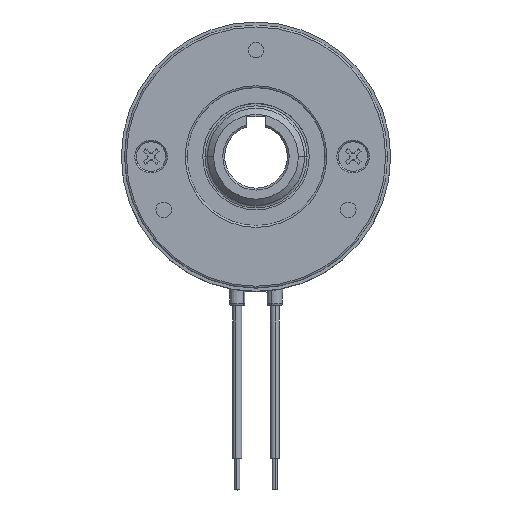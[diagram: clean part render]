
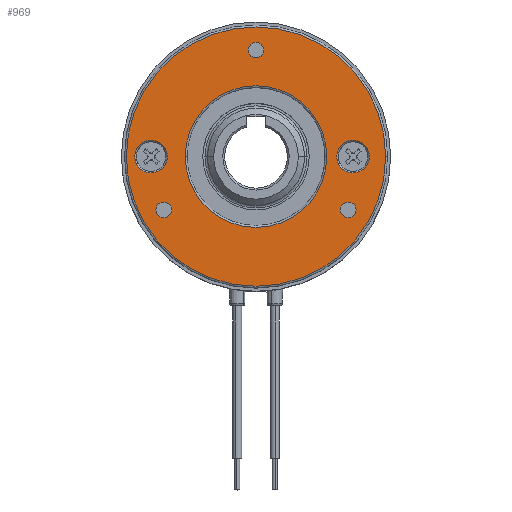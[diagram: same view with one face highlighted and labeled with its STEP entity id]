
A CAD part, top view. The second image highlights one B-rep face of the part: STEP entity #969.
In plain terms, the highlighted planar face has unit normal (0, 0, 1).
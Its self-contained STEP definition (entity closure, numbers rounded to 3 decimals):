
#89 = FACE_BOUND ( 'NONE', #3168, .T. ) ;
#128 = FACE_BOUND ( 'NONE', #4302, .T. ) ;
#214 = FACE_BOUND ( 'NONE', #3398, .T. ) ;
#236 = FACE_BOUND ( 'NONE', #728, .T. ) ;
#263 = EDGE_CURVE ( 'NONE', #2891, #1393, #4825, .T. ) ;
#368 = CARTESIAN_POINT ( 'NONE',  ( 14.722, -8.5, 0. ) ) ;
#398 = ORIENTED_EDGE ( 'NONE', *, *, #4650, .F. ) ;
#420 = EDGE_CURVE ( 'NONE', #2273, #3628, #7636, .T. ) ;
#464 = DIRECTION ( 'NONE',  ( 1., 0., 0. ) ) ;
#544 = CARTESIAN_POINT ( 'NONE',  ( 18.1, 0., 0. ) ) ;
#728 = EDGE_LOOP ( 'NONE', ( #1617, #3169 ) ) ;
#773 = CIRCLE ( 'NONE', #5857, 1.25 ) ;
#788 = CIRCLE ( 'NONE', #3724, 1.25 ) ;
#810 = AXIS2_PLACEMENT_3D ( 'NONE', #2405, #2559, #2183 ) ;
#852 = DIRECTION ( 'NONE',  ( 1., 0., 0. ) ) ;
#969 = ADVANCED_FACE ( 'NONE', ( #236, #5859, #128, #4513, #89, #1457, #214 ), #7875, .F. ) ;
#1056 = DIRECTION ( 'NONE',  ( 0., 0., 1. ) ) ;
#1060 = EDGE_CURVE ( 'NONE', #5791, #5959, #6998, .T. ) ;
#1303 = CIRCLE ( 'NONE', #1578, 1.25 ) ;
#1336 = ORIENTED_EDGE ( 'NONE', *, *, #5401, .F. ) ;
#1340 = ORIENTED_EDGE ( 'NONE', *, *, #1480, .F. ) ;
#1393 = VERTEX_POINT ( 'NONE', #5260 ) ;
#1433 = CARTESIAN_POINT ( 'NONE',  ( -15.972, -8.5, 0. ) ) ;
#1457 = FACE_BOUND ( 'NONE', #5254, .T. ) ;
#1480 = EDGE_CURVE ( 'NONE', #4251, #3710, #3705, .T. ) ;
#1493 = CIRCLE ( 'NONE', #2157, 20.7 ) ;
#1522 = CARTESIAN_POINT ( 'NONE',  ( 0., 0., 0. ) ) ;
#1578 = AXIS2_PLACEMENT_3D ( 'NONE', #6870, #8249, #2374 ) ;
#1617 = ORIENTED_EDGE ( 'NONE', *, *, #2200, .T. ) ;
#1666 = DIRECTION ( 'NONE',  ( 0., 0., 1. ) ) ;
#1754 = CIRCLE ( 'NONE', #3357, 2.6 ) ;
#1793 = DIRECTION ( 'NONE',  ( 0., 0., 1. ) ) ;
#1840 = DIRECTION ( 'NONE',  ( 1., 0., 0. ) ) ;
#1869 = CIRCLE ( 'NONE', #4690, 20.7 ) ;
#1954 = AXIS2_PLACEMENT_3D ( 'NONE', #368, #4798, #2793 ) ;
#1995 = DIRECTION ( 'NONE',  ( 0., 0., -1. ) ) ;
#2090 = CARTESIAN_POINT ( 'NONE',  ( 0., 17., 0. ) ) ;
#2101 = VERTEX_POINT ( 'NONE', #4568 ) ;
#2157 = AXIS2_PLACEMENT_3D ( 'NONE', #1522, #5380, #6636 ) ;
#2183 = DIRECTION ( 'NONE',  ( -1., 0., 0. ) ) ;
#2200 = EDGE_CURVE ( 'NONE', #1393, #2891, #5358, .T. ) ;
#2273 = VERTEX_POINT ( 'NONE', #3570 ) ;
#2374 = DIRECTION ( 'NONE',  ( 1., 0., 0. ) ) ;
#2405 = CARTESIAN_POINT ( 'NONE',  ( 0., 0., 0. ) ) ;
#2455 = CARTESIAN_POINT ( 'NONE',  ( 0., 0., 0. ) ) ;
#2475 = CARTESIAN_POINT ( 'NONE',  ( 14.722, -8.5, 0. ) ) ;
#2520 = DIRECTION ( 'NONE',  ( 0., 0., 1. ) ) ;
#2559 = DIRECTION ( 'NONE',  ( 0., 0., -1. ) ) ;
#2635 = CARTESIAN_POINT ( 'NONE',  ( 0., 11., 0. ) ) ;
#2647 = AXIS2_PLACEMENT_3D ( 'NONE', #6191, #3723, #464 ) ;
#2676 = DIRECTION ( 'NONE',  ( -1., 0., 0. ) ) ;
#2701 = EDGE_LOOP ( 'NONE', ( #8152, #7869 ) ) ;
#2746 = CARTESIAN_POINT ( 'NONE',  ( 15.972, -8.5, 0. ) ) ;
#2793 = DIRECTION ( 'NONE',  ( 1., 0., 0. ) ) ;
#2800 = CARTESIAN_POINT ( 'NONE',  ( 0., 17., 0. ) ) ;
#2891 = VERTEX_POINT ( 'NONE', #4620 ) ;
#3027 = ORIENTED_EDGE ( 'NONE', *, *, #1060, .F. ) ;
#3092 = CARTESIAN_POINT ( 'NONE',  ( -16.75, 0., 0. ) ) ;
#3120 = EDGE_CURVE ( 'NONE', #7740, #3331, #1869, .T. ) ;
#3125 = AXIS2_PLACEMENT_3D ( 'NONE', #2635, #1995, #2676 ) ;
#3154 = CARTESIAN_POINT ( 'NONE',  ( -1.25, 17., 0. ) ) ;
#3168 = EDGE_LOOP ( 'NONE', ( #1340, #1336 ) ) ;
#3169 = ORIENTED_EDGE ( 'NONE', *, *, #263, .T. ) ;
#3199 = ORIENTED_EDGE ( 'NONE', *, *, #7217, .F. ) ;
#3322 = EDGE_LOOP ( 'NONE', ( #7409, #398 ) ) ;
#3331 = VERTEX_POINT ( 'NONE', #3408 ) ;
#3357 = AXIS2_PLACEMENT_3D ( 'NONE', #3092, #1793, #3602 ) ;
#3398 = EDGE_LOOP ( 'NONE', ( #5170, #3027 ) ) ;
#3408 = CARTESIAN_POINT ( 'NONE',  ( -20.7, 0., 0. ) ) ;
#3486 = ORIENTED_EDGE ( 'NONE', *, *, #420, .F. ) ;
#3570 = CARTESIAN_POINT ( 'NONE',  ( -14.15, 0., 0. ) ) ;
#3602 = DIRECTION ( 'NONE',  ( 1., 0., 0. ) ) ;
#3606 = EDGE_CURVE ( 'NONE', #3628, #2273, #1754, .T. ) ;
#3628 = VERTEX_POINT ( 'NONE', #7034 ) ;
#3705 = CIRCLE ( 'NONE', #1954, 1.25 ) ;
#3710 = VERTEX_POINT ( 'NONE', #4474 ) ;
#3723 = DIRECTION ( 'NONE',  ( 0., 0., 1. ) ) ;
#3724 = AXIS2_PLACEMENT_3D ( 'NONE', #2475, #6962, #1840 ) ;
#3776 = CIRCLE ( 'NONE', #6989, 2.6 ) ;
#3799 = DIRECTION ( 'NONE',  ( 0., 0., 1. ) ) ;
#3986 = CIRCLE ( 'NONE', #2647, 1.25 ) ;
#4016 = AXIS2_PLACEMENT_3D ( 'NONE', #4545, #3799, #5809 ) ;
#4202 = CARTESIAN_POINT ( 'NONE',  ( 15.5, 0., 0. ) ) ;
#4251 = VERTEX_POINT ( 'NONE', #2746 ) ;
#4302 = EDGE_LOOP ( 'NONE', ( #3486, #7776 ) ) ;
#4452 = EDGE_CURVE ( 'NONE', #7168, #2101, #3776, .T. ) ;
#4474 = CARTESIAN_POINT ( 'NONE',  ( 13.472, -8.5, 0. ) ) ;
#4513 = FACE_BOUND ( 'NONE', #3322, .T. ) ;
#4545 = CARTESIAN_POINT ( 'NONE',  ( -16.75, 0., 0. ) ) ;
#4568 = CARTESIAN_POINT ( 'NONE',  ( 12.9, 0., 0. ) ) ;
#4615 = EDGE_CURVE ( 'NONE', #3331, #7740, #1493, .T. ) ;
#4620 = CARTESIAN_POINT ( 'NONE',  ( 11.3, 0., 0. ) ) ;
#4650 = EDGE_CURVE ( 'NONE', #2101, #7168, #6038, .T. ) ;
#4690 = AXIS2_PLACEMENT_3D ( 'NONE', #4791, #1056, #5581 ) ;
#4791 = CARTESIAN_POINT ( 'NONE',  ( 0., 0., 0. ) ) ;
#4798 = DIRECTION ( 'NONE',  ( 0., 0., 1. ) ) ;
#4825 = CIRCLE ( 'NONE', #6439, 11.3 ) ;
#4984 = AXIS2_PLACEMENT_3D ( 'NONE', #2800, #1666, #5357 ) ;
#5170 = ORIENTED_EDGE ( 'NONE', *, *, #6839, .F. ) ;
#5254 = EDGE_LOOP ( 'NONE', ( #3199, #7188 ) ) ;
#5260 = CARTESIAN_POINT ( 'NONE',  ( -11.3, 0., 0. ) ) ;
#5326 = CARTESIAN_POINT ( 'NONE',  ( 1.25, 17., 0. ) ) ;
#5357 = DIRECTION ( 'NONE',  ( 1., 0., 0. ) ) ;
#5358 = CIRCLE ( 'NONE', #810, 11.3 ) ;
#5380 = DIRECTION ( 'NONE',  ( 0., 0., 1. ) ) ;
#5401 = EDGE_CURVE ( 'NONE', #3710, #4251, #788, .T. ) ;
#5572 = DIRECTION ( 'NONE',  ( 1., 0., 0. ) ) ;
#5581 = DIRECTION ( 'NONE',  ( -1., 0., 0. ) ) ;
#5791 = VERTEX_POINT ( 'NONE', #3154 ) ;
#5809 = DIRECTION ( 'NONE',  ( 1., 0., 0. ) ) ;
#5857 = AXIS2_PLACEMENT_3D ( 'NONE', #2090, #7092, #852 ) ;
#5859 = FACE_OUTER_BOUND ( 'NONE', #2701, .T. ) ;
#5924 = VERTEX_POINT ( 'NONE', #1433 ) ;
#5959 = VERTEX_POINT ( 'NONE', #5326 ) ;
#6038 = CIRCLE ( 'NONE', #8056, 2.6 ) ;
#6191 = CARTESIAN_POINT ( 'NONE',  ( -14.722, -8.5, 0. ) ) ;
#6199 = DIRECTION ( 'NONE',  ( 0., 0., 1. ) ) ;
#6439 = AXIS2_PLACEMENT_3D ( 'NONE', #2455, #8081, #8244 ) ;
#6636 = DIRECTION ( 'NONE',  ( -1., 0., 0. ) ) ;
#6839 = EDGE_CURVE ( 'NONE', #5959, #5791, #773, .T. ) ;
#6870 = CARTESIAN_POINT ( 'NONE',  ( -14.722, -8.5, 0. ) ) ;
#6962 = DIRECTION ( 'NONE',  ( 0., 0., 1. ) ) ;
#6989 = AXIS2_PLACEMENT_3D ( 'NONE', #7690, #2520, #7729 ) ;
#6998 = CIRCLE ( 'NONE', #4984, 1.25 ) ;
#7031 = CARTESIAN_POINT ( 'NONE',  ( 20.7, 0., 0. ) ) ;
#7034 = CARTESIAN_POINT ( 'NONE',  ( -19.35, 0., 0. ) ) ;
#7092 = DIRECTION ( 'NONE',  ( 0., 0., 1. ) ) ;
#7165 = EDGE_CURVE ( 'NONE', #5924, #7654, #1303, .T. ) ;
#7168 = VERTEX_POINT ( 'NONE', #544 ) ;
#7188 = ORIENTED_EDGE ( 'NONE', *, *, #7165, .F. ) ;
#7217 = EDGE_CURVE ( 'NONE', #7654, #5924, #3986, .T. ) ;
#7409 = ORIENTED_EDGE ( 'NONE', *, *, #4452, .F. ) ;
#7636 = CIRCLE ( 'NONE', #4016, 2.6 ) ;
#7654 = VERTEX_POINT ( 'NONE', #8160 ) ;
#7690 = CARTESIAN_POINT ( 'NONE',  ( 15.5, 0., 0. ) ) ;
#7729 = DIRECTION ( 'NONE',  ( 1., 0., 0. ) ) ;
#7740 = VERTEX_POINT ( 'NONE', #7031 ) ;
#7776 = ORIENTED_EDGE ( 'NONE', *, *, #3606, .F. ) ;
#7869 = ORIENTED_EDGE ( 'NONE', *, *, #3120, .T. ) ;
#7875 = PLANE ( 'NONE',  #3125 ) ;
#8056 = AXIS2_PLACEMENT_3D ( 'NONE', #4202, #6199, #5572 ) ;
#8081 = DIRECTION ( 'NONE',  ( 0., 0., -1. ) ) ;
#8152 = ORIENTED_EDGE ( 'NONE', *, *, #4615, .T. ) ;
#8160 = CARTESIAN_POINT ( 'NONE',  ( -13.472, -8.5, 0. ) ) ;
#8244 = DIRECTION ( 'NONE',  ( -1., 0., 0. ) ) ;
#8249 = DIRECTION ( 'NONE',  ( 0., 0., 1. ) ) ;
